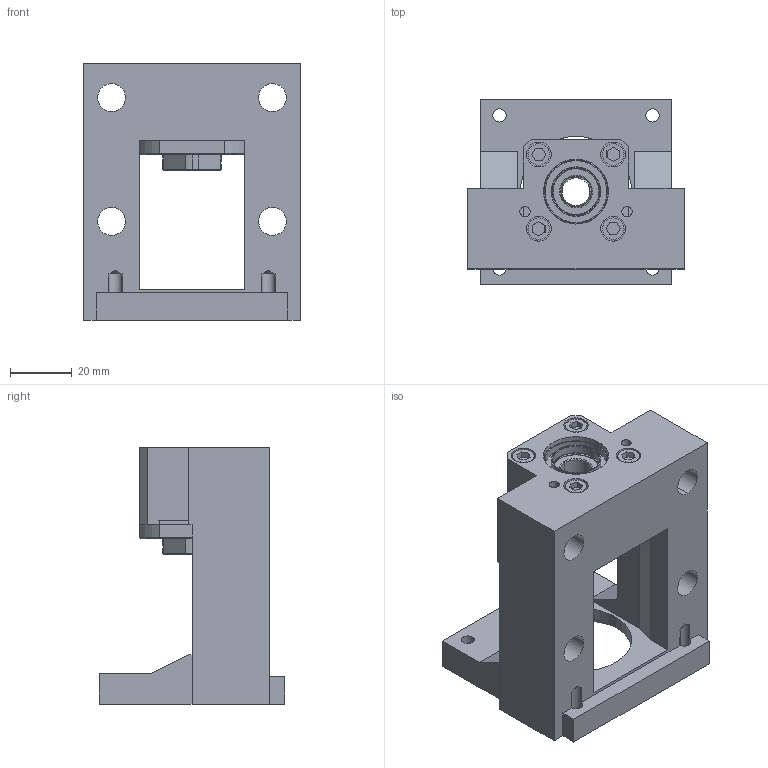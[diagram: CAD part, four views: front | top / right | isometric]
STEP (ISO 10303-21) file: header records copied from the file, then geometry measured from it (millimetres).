
FILE_DESCRIPTION (( 'STEP AP203' ), '1' );
FILE_NAME ('MBCE10-D.STEP', '2017-12-28T07:23:14', ( '' ), ( '' ), 'SwSTEP 2.0', 'SolidWorks 2017', '' );
FILE_SCHEMA (( 'CONFIG_CONTROL_DESIGN' ));
Length unit declared in the file: millimetre
Products named in the file (1): MBCE10-D
Bounding box: 70 x 60 x 83 mm (x, y, z)
Surface area: 34658.2 mm2 (no closed solid volume)
Topology: 0 solids, 19 shells, 243 faces, 670 edges, 445 vertices
Faces by surface type: plane 101, cylinder 85, cone 41, torus 12, bspline 4
Entity records: 8421 total; most frequent: CARTESIAN_POINT 2052, DIRECTION 1361, ORIENTED_EDGE 1199, EDGE_CURVE 666, AXIS2_PLACEMENT_3D 512, VERTEX_POINT 445, LINE 337, VECTOR 337
